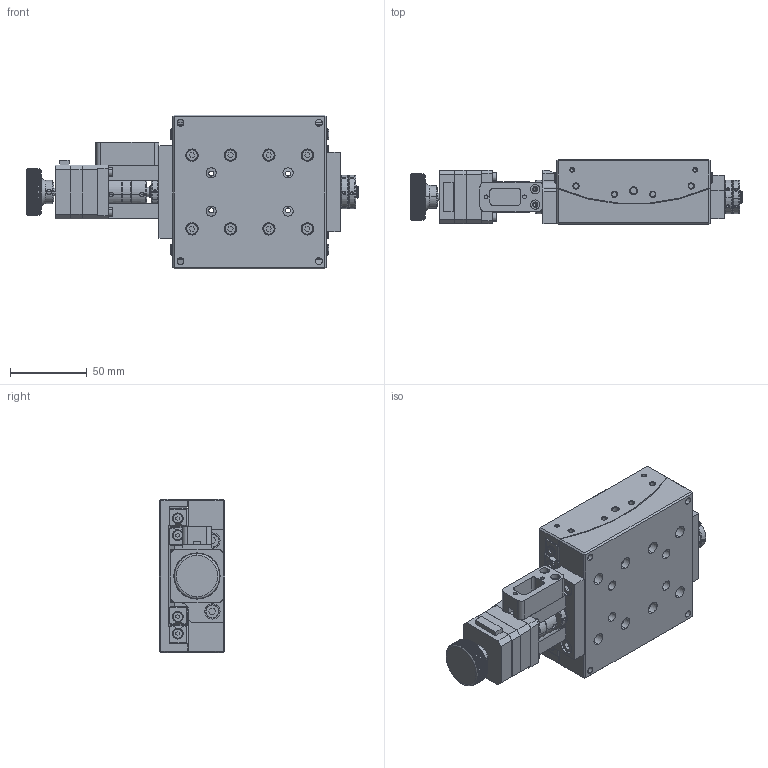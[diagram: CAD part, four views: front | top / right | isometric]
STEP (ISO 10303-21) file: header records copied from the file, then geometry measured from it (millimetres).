
FILE_DESCRIPTION (( 'STEP AP203' ), '1' );
FILE_NAME ('PT-GD395萇雄褒弇怢.STEP', '2025-10-09T01:17:36', ( '' ), ( '' ), 'SwSTEP 2.0', 'SolidWorks 2023', '' );
FILE_SCHEMA (( 'CONFIG_CONTROL_DESIGN' ));
Length unit declared in the file: millimetre
Products named in the file (18): PT-SD395-08导轨; GB／T 70．1-2000[内六角圆柱头螺钉M3×8]; PT-SD395-02电机延长座; PT-SD395-02轴承座; GB／T 70．1-2000[内六角圆柱头螺钉M5×12]; BYG236-08B-001; 联轴器26-20-5-6; 角接触球轴承708C-AC_角接触球轴承708C-AC; PT-GD395-06涡轮; PT-SD395-03锁紧螺母; PT-GD395-05涡杆整体; PT-GD395电动角位台; GB／T 70．1-2000[内六角圆柱头螺钉M4×16]; PT-SD395-04台面; M3-5（7）; 电机9针座标准件; PT-GD395-01底座; PDV-42电机手轮
Assembly tree (51 placements, depth 2):
  PT-GD395电动角位台
    PT-GD395-01底座
    PT-SD395-02轴承座
    PT-SD395-02电机延长座
    PT-SD395-03锁紧螺母  x3
    PT-SD395-04台面
    PT-SD395-08导轨  x4
    角接触球轴承708C-AC_角接触球轴承708C-AC  x2
    BYG236-08B-001
    联轴器26-20-5-6
    PDV-42电机手轮
    GB／T 70．1-2000[内六角圆柱头螺钉M3×8]  x4
    PT-GD395-06涡轮
    PT-GD395-05涡杆整体
    电机9针座标准件
    GB／T 70．1-2000[内六角圆柱头螺钉M4×16]  x16
    GB／T 70．1-2000[内六角圆柱头螺钉M5×12]  x4
    M3-5（7）  x8
Bounding box: 216 x 42.5 x 100 mm (x, y, z)
Volume: 459746.5 mm3; surface area: 166325.2 mm2
Topology: 51 solids, 51 shells, 2748 faces, 7342 edges, 4673 vertices
Faces by surface type: plane 1063, cylinder 908, cone 339, torus 206, bspline 184, sphere 48
Entity records: 83323 total; most frequent: CARTESIAN_POINT 35452, ORIENTED_EDGE 10286, DIRECTION 8185, EDGE_CURVE 5143, VERTEX_POINT 3351, AXIS2_PLACEMENT_3D 3030, EDGE_LOOP 2132, VECTOR 2125
